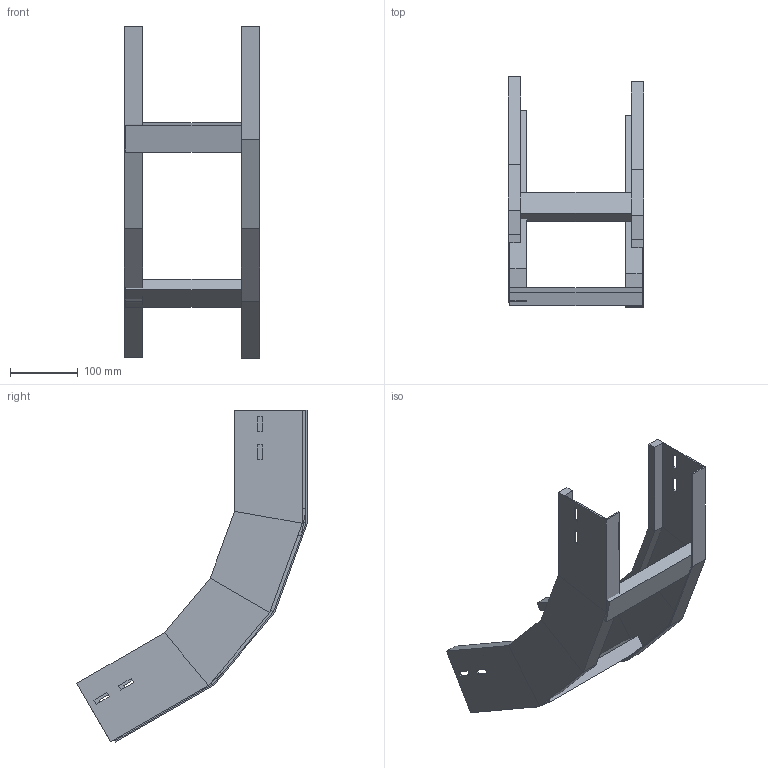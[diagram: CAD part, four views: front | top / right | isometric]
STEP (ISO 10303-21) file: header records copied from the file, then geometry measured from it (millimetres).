
FILE_DESCRIPTION (( 'STEP AP214' ), '1' );
FILE_NAME ('A2X40B3D200XX.step', '2025-04-02T09:40:23', ( '' ), ( '' ), 'SwSTEP 2.0', 'SolidWorks 2023', '' );
FILE_SCHEMA (( 'AUTOMOTIVE_DESIGN' ));
Length unit declared in the file: millimetre
Products named in the file (3): LONGH.SALITA_60°_H100_R300; TRAVERSINO_200; A2X40B3D200XX
Assembly tree (4 placements, depth 2):
  A2X40B3D200XX
    LONGH.SALITA_60°_H100_R300  x2
    TRAVERSINO_200  x2
Bounding box: 200 x 340.82 x 490.76 mm (x, y, z)
Volume: 799970 mm3; surface area: 375088.7 mm2
Topology: 4 solids, 4 shells, 112 faces, 264 edges, 160 vertices
Faces by surface type: plane 112
Entity records: 1664 total; most frequent: CARTESIAN_POINT 275, ORIENTED_EDGE 264, DIRECTION 258, EDGE_CURVE 132, LINE 132, VECTOR 132, VERTEX_POINT 80, EDGE_LOOP 64
